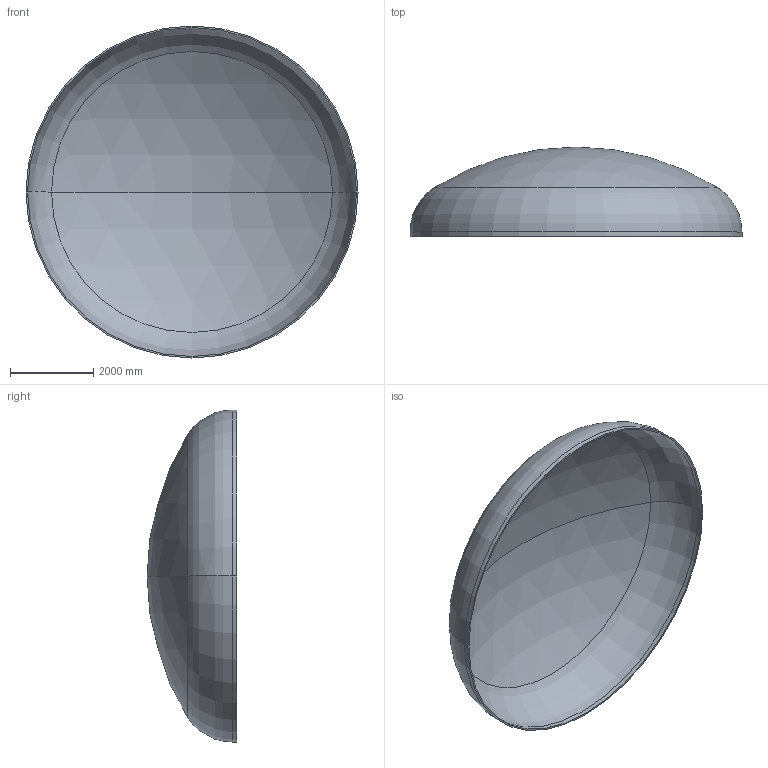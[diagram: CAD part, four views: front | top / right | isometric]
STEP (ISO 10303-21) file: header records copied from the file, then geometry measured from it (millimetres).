
FILE_DESCRIPTION (( 'STEP AP203' ), '1' );
FILE_NAME ('DIN 28013 Korbbogenform_-_Boden DIN 28013 - 8000 x 110 - I - s=36.step', '2016-07-04T11:00:53', ( '' ), ( '' ), 'SwSTEP 2.0', 'SolidWorks 2013', '' );
FILE_SCHEMA (( 'CONFIG_CONTROL_DESIGN' ));
Length unit declared in the file: millimetre
Products named in the file (1): DIN 28013 Korbbogenform_-_Boden DIN 28013 - 8000 x 110 - I - s=36
Bounding box: 8000 x 2158.05 x 8000 mm (x, y, z)
Volume: 2589742841.9 mm3; surface area: 144777966.4 mm2
Topology: 1 solids, 1 shells, 13 faces, 24 edges, 14 vertices
Faces by surface type: torus 4, cylinder 4, sphere 4, plane 1
Entity records: 407 total; most frequent: DIRECTION 72, CARTESIAN_POINT 52, ORIENTED_EDGE 48, AXIS2_PLACEMENT_3D 34, EDGE_CURVE 24, CIRCLE 20, EDGE_LOOP 14, VERTEX_POINT 14
